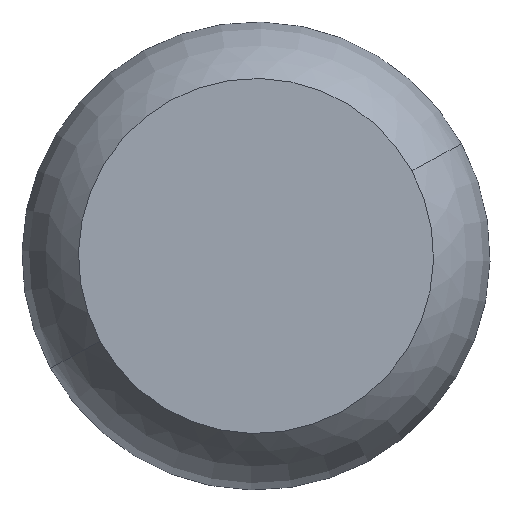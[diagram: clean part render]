
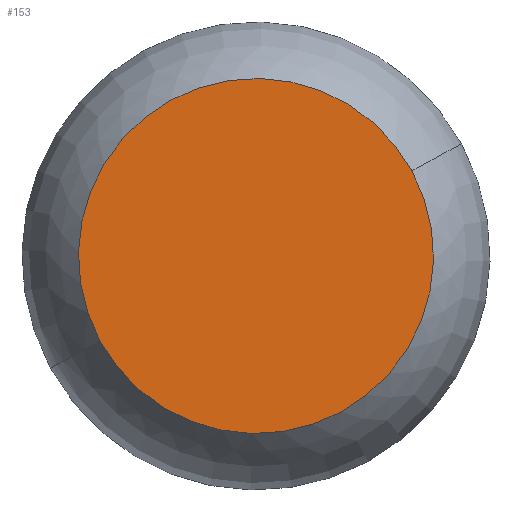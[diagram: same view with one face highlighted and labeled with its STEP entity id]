
A CAD part, front view. The second image highlights one B-rep face of the part: STEP entity #153.
In plain terms, the highlighted planar face has unit normal (0, -1, 0).
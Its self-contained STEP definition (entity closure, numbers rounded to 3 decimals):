
#66=CARTESIAN_POINT('Axis2P3D Location',(0.,0.,0.)) ;
#70=CARTESIAN_POINT('Vertex',(88.636,0.,48.422)) ;
#72=CARTESIAN_POINT('Vertex',(-88.636,0.,-48.422)) ;
#127=CARTESIAN_POINT('Axis2P3D Location',(0.,0.,0.)) ;
#144=CARTESIAN_POINT('Axis2P3D Location',(0.,0.,0.)) ;
#67=DIRECTION('Axis2P3D Direction',(0.,-1.,0.)) ;
#128=DIRECTION('Axis2P3D Direction',(0.,-1.,0.)) ;
#145=DIRECTION('Axis2P3D Direction',(0.,-1.,0.)) ;
#146=DIRECTION('Axis2P3D XDirection',(1.,0.,0.)) ;
#68=AXIS2_PLACEMENT_3D('Circle Axis2P3D',#66,#67,$) ;
#129=AXIS2_PLACEMENT_3D('Circle Axis2P3D',#127,#128,$) ;
#147=AXIS2_PLACEMENT_3D('Plane Axis2P3D',#144,#145,#146) ;
#150=ORIENTED_EDGE('',*,*,#74,.T.) ;
#151=ORIENTED_EDGE('',*,*,#131,.T.) ;
#153=ADVANCED_FACE('PartBody',(#152),#148,.T.) ;
#69=CIRCLE('generated circle',#68,101.) ;
#130=CIRCLE('generated circle',#129,101.) ;
#74=EDGE_CURVE('',#71,#73,#69,.T.) ;
#131=EDGE_CURVE('',#73,#71,#130,.T.) ;
#149=EDGE_LOOP('',(#150,#151)) ;
#152=FACE_OUTER_BOUND('',#149,.T.) ;
#148=PLANE('',#147) ;
#71=VERTEX_POINT('',#70) ;
#73=VERTEX_POINT('',#72) ;
